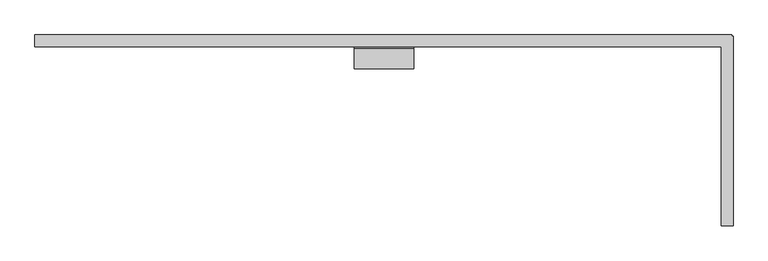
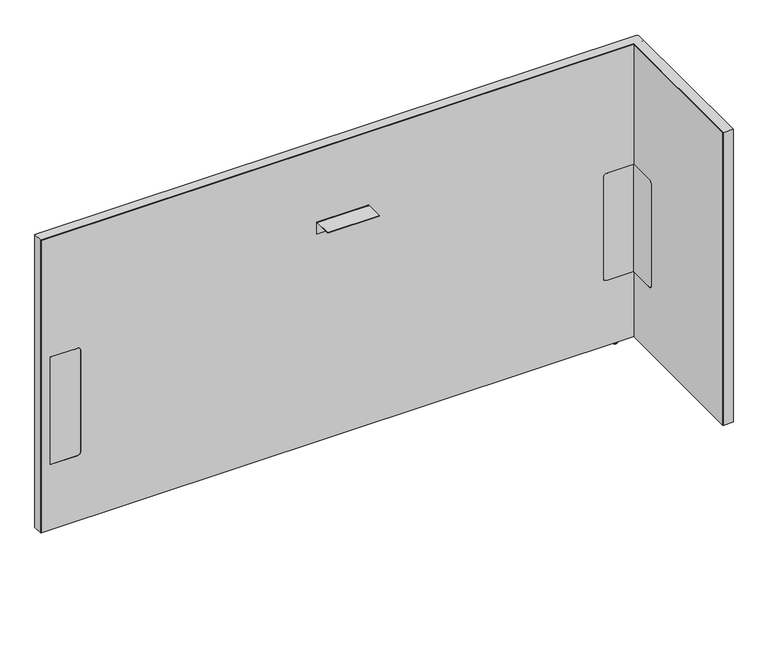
"""IFC4 building model written with IfcOpenShell, lengths in millimetres: furniture geometry, Steelcase - Answer Solution - Boundary Screen - L Return - Single Sided : 36H x 69W."""

import ifcopenshell
import ifcopenshell.guid

model = None  # the IFC model being written
_history = None  # IfcOwnerHistory: only IFC2X3 demands one
_inside = {}  # id of a spatial element -> (the spatial element, [elements in it])
_under = {}  # id of a project, library or spatial element -> (it, [spatial elements below it])
_declared = {}  # id of a project -> (the project, [libraries it declares])
_typed = {}  # id of a type object -> (the type object, [elements of that type])
_made_of = {}  # id of a material, layer set ... -> (it, [elements and type objects made of it])


def new_model(schema):
    """Start an empty IFC model of exactly this schema.

    Asked for "IFC4X3", IfcOpenShell would pick the latest addendum, in which some entities
    have other attributes; the version numbers below select the first issue.
    IFC2X3 requires an IfcOwnerHistory on every rooted entity: one is made here for all.
    """
    global model, _history
    if schema == "IFC4X3":
        model = ifcopenshell.file(schema_version=(4, 3, 0, 0))
    else:
        model = ifcopenshell.file(schema=schema)
    _inside.clear()
    _under.clear()
    _declared.clear()
    _typed.clear()
    _made_of.clear()
    _history = None
    if model.schema == "IFC2X3":
        org = make("IfcOrganization", Name="unknown")
        user = make(
            "IfcPersonAndOrganization",
            ThePerson=make("IfcPerson", FamilyName="unknown"),
            TheOrganization=org,
        )
        app = make(
            "IfcApplication",
            ApplicationDeveloper=org,
            Version="unknown",
            ApplicationFullName="unknown",
            ApplicationIdentifier="unknown",
        )
        _history = make(
            "IfcOwnerHistory",
            OwningUser=user,
            OwningApplication=app,
            ChangeAction="ADDED",
            CreationDate=0,
        )
    return model


def make(cls, **values):
    """One entity of the class cls with the attributes given. An attribute that is None is left unset."""
    return model.create_entity(
        cls, **{name: value for name, value in values.items() if value is not None}
    )


def rooted(cls, **values):
    """An entity with a GlobalId (a new one), such as an element, a storey or a relation."""
    return make(cls, GlobalId=ifcopenshell.guid.new(), OwnerHistory=_history, **values)


def si_unit(unit_type, name, prefix=None):
    """IfcSIUnit, for example si_unit("LENGTHUNIT", "METRE", prefix="MILLI")."""
    return make("IfcSIUnit", UnitType=unit_type, Prefix=prefix, Name=name)


def assignment(units):
    """IfcUnitAssignment: the units of a project."""
    return None if units is None else make("IfcUnitAssignment", Units=units)


def point(xyz):
    """IfcCartesianPoint."""
    return None if xyz is None else make("IfcCartesianPoint", Coordinates=xyz)


def direction(xyz):
    """IfcDirection."""
    return None if xyz is None else make("IfcDirection", DirectionRatios=xyz)


def frame(location, z_axis=None, x_axis=None):
    """IfcAxis2Placement3D, a coordinate frame: its origin and axes. An axis left out is left unset."""
    return make(
        "IfcAxis2Placement3D",
        Location=point(location),
        Axis=direction(z_axis),
        RefDirection=direction(x_axis),
    )


def frame_2d(location, x_axis=None):
    """IfcAxis2Placement2D, a coordinate frame in the plane: its origin and x axis."""
    return make(
        "IfcAxis2Placement2D", Location=point(location), RefDirection=direction(x_axis)
    )


def origin():
    """The frame at (0, 0, 0) with its axes left unset."""
    return frame((0.0, 0.0, 0.0))


def place(relative_to, where):
    """IfcLocalPlacement: puts the frame where relative to a parent placement (None: the world)."""
    return make(
        "IfcLocalPlacement", PlacementRelTo=relative_to, RelativePlacement=where
    )


def context(
    kind, dimensions, precision=None, world=None, true_north=None, identifier=None
):
    """IfcGeometricRepresentationContext, for example the 3D "Model" context."""
    return make(
        "IfcGeometricRepresentationContext",
        ContextIdentifier=identifier,
        ContextType=kind,
        CoordinateSpaceDimension=dimensions,
        Precision=precision,
        WorldCoordinateSystem=world,
        TrueNorth=true_north,
    )


def project(units=None, contexts=None):
    """IfcProject with its units and contexts."""
    return rooted(
        "IfcProject",
        Name="project",
        RepresentationContexts=contexts,
        UnitsInContext=assignment(units),
    )


def spatial(cls, under=None, at=None, **own):
    """A site, building, storey or space (cls), placed at a placement, below another one or the project."""
    s = rooted(cls, ObjectPlacement=at, **own)
    if under is not None:
        _under.setdefault(under.id(), (under, []))[1].append(s)
    return s


def polyline(points):
    """IfcPolyline through the points."""
    return make("IfcPolyline", Points=[point(p) for p in points])


def circle_curve(where, radius):
    """IfcCircle in the frame where."""
    return make("IfcCircle", Position=where, Radius=radius)


def ellipse_curve(where, semi_axis1, semi_axis2):
    """IfcEllipse in the frame where."""
    return make(
        "IfcEllipse", Position=where, SemiAxis1=semi_axis1, SemiAxis2=semi_axis2
    )


def trimmed(basis, trim1, trim2, sense, master):
    """IfcTrimmedCurve: the piece of a basis curve between two trims."""
    return make(
        "IfcTrimmedCurve",
        BasisCurve=basis,
        Trim1=trim1,
        Trim2=trim2,
        SenseAgreement=sense,
        MasterRepresentation=master,
    )


def segment(curve, same_sense, transition):
    """IfcCompositeCurveSegment."""
    return make(
        "IfcCompositeCurveSegment",
        Transition=transition,
        SameSense=same_sense,
        ParentCurve=curve,
    )


def composite_curve(segments, self_intersect=None):
    """IfcCompositeCurve: segments joined end to end."""
    return make("IfcCompositeCurve", Segments=segments, SelfIntersect=self_intersect)


def outline(outer, holes=None, kind="AREA"):
    """IfcArbitraryClosedProfileDef: a profile drawn as a closed curve; with holes, ...WithVoids."""
    if holes is None:
        return make("IfcArbitraryClosedProfileDef", ProfileType=kind, OuterCurve=outer)
    return make(
        "IfcArbitraryProfileDefWithVoids",
        ProfileType=kind,
        OuterCurve=outer,
        InnerCurves=holes,
    )


def extrude(swept, where, along, depth):
    """IfcExtrudedAreaSolid: the profile swept, set in the frame where, extruded along a direction by depth."""
    return make(
        "IfcExtrudedAreaSolid",
        SweptArea=swept,
        Position=where,
        ExtrudedDirection=direction(along),
        Depth=depth,
    )


def faces_of(points, faces, orient=None, outer=None):
    """IfcFace entities. A face is a list of loops; a loop is a list of indices into points, from 0.

    orient and outer hold one flag for each loop. By default every Orientation is true, the
    first loop of a face is its IfcFaceOuterBound and the others are IfcFaceBound.
    """
    made = []
    for i, loops in enumerate(faces):
        bounds = []
        for j, loop in enumerate(loops):
            is_outer = j == 0 if outer is None else outer[i][j]
            bounds.append(
                make(
                    "IfcFaceOuterBound" if is_outer else "IfcFaceBound",
                    Bound=make("IfcPolyLoop", Polygon=[points[k] for k in loop]),
                    Orientation=True if orient is None else orient[i][j],
                )
            )
        made.append(make("IfcFace", Bounds=bounds))
    return made


def faceted_brep(points, faces, orient=None, outer=None, voids=None):
    """IfcFacetedBrep: a solid bounded by flat faces; with voids (closed shells), ...WithVoids."""
    shared = [point(p) for p in points]
    hull = make("IfcClosedShell", CfsFaces=faces_of(shared, faces, orient, outer))
    if voids is None:
        return make("IfcFacetedBrep", Outer=hull)
    return make(
        "IfcFacetedBrepWithVoids",
        Outer=hull,
        Voids=[
            make(cls, CfsFaces=faces_of(shared, fs, o, b)) for cls, fs, o, b in voids
        ],
    )


def shape(context_of_items, identifier, shape_type, items):
    """IfcShapeRepresentation: the items that make up one representation, for example the "Body"."""
    return make(
        "IfcShapeRepresentation",
        ContextOfItems=context_of_items,
        RepresentationIdentifier=identifier,
        RepresentationType=shape_type,
        Items=items,
    )


def source(mapping_origin, context_of_items, identifier, shape_type, items):
    """IfcRepresentationMap: a shape defined once, which mapped items show again and again."""
    return make(
        "IfcRepresentationMap",
        MappingOrigin=mapping_origin,
        MappedRepresentation=shape(context_of_items, identifier, shape_type, items),
    )


def transform(
    local_origin,
    x_axis=None,
    y_axis=None,
    z_axis=None,
    scale=None,
    scale2=None,
    scale3=None,
    uniform=True,
):
    """IfcCartesianTransformationOperator3D, or its non-uniform kind. x_axis, y_axis, z_axis: its Axis1, 2, 3."""
    if uniform:
        return make(
            "IfcCartesianTransformationOperator3D",
            Axis1=direction(x_axis),
            Axis2=direction(y_axis),
            LocalOrigin=point(local_origin),
            Scale=scale,
            Axis3=direction(z_axis),
        )
    return make(
        "IfcCartesianTransformationOperator3DnonUniform",
        Axis1=direction(x_axis),
        Axis2=direction(y_axis),
        LocalOrigin=point(local_origin),
        Scale=scale,
        Axis3=direction(z_axis),
        Scale2=scale2,
        Scale3=scale3,
    )


def mapped(mapping_source, mapping_target):
    """IfcMappedItem: shows the shape of a source again, moved by a transform."""
    return make(
        "IfcMappedItem", MappingSource=mapping_source, MappingTarget=mapping_target
    )


def made_of(thing, what):
    """Note that an element or type object is made of a material, layer set ...; save() writes the relation."""
    if what is not None:
        _made_of.setdefault(what.id(), (what, []))[1].append(thing)
    return thing


def element(
    cls,
    number,
    at=None,
    inside=None,
    cuts=None,
    type_object=None,
    material=None,
    context=None,
    identifier="Body",
    shape_type=None,
    held_by="IfcProductDefinitionShape",
    body=None,
    shapes=None,
    **own,
):
    """One element of the class cls, such as IfcWall. Its Tag is "e" and its number.

    at: its placement. inside: the storey or other place that contains it. cuts: it is an
    opening in that element (IfcRelVoidsElement). A single representation is given by context,
    identifier, shape_type and body (its items); several are given by shapes. held_by: the class
    of the entity that holds the representations. save() writes the other relations.
    """
    e = rooted(cls, Tag="e%d" % number, ObjectPlacement=at, **own)
    if body is not None:
        shapes = [shape(context, identifier, shape_type, body)]
    if shapes is not None:
        e.Representation = make(held_by, Representations=shapes)
    if inside is not None:
        _inside.setdefault(inside.id(), (inside, []))[1].append(e)
    if cuts is not None:
        rooted(
            "IfcRelVoidsElement", RelatingBuildingElement=cuts, RelatedOpeningElement=e
        )
    if type_object is not None:
        _typed.setdefault(type_object.id(), (type_object, []))[1].append(e)
    return made_of(e, material)


def aggregate(whole, parts):
    """IfcRelAggregates: a whole, such as a stair, and the parts it consists of."""
    return rooted("IfcRelAggregates", RelatingObject=whole, RelatedObjects=parts)


def save(model, path):
    """Write the relations noted so far, then the file.

    IfcRelAggregates (storeys below a building ...), IfcRelContainedInSpatialStructure (elements
    in a storey), IfcRelDefinesByType, IfcRelAssociatesMaterial and IfcRelDeclares: one each for
    every whole, place, type object, material and project.
    """
    for whole, parts in _under.values():
        aggregate(whole, parts)
    for where, things in _inside.values():
        rooted(
            "IfcRelContainedInSpatialStructure",
            RelatedElements=things,
            RelatingStructure=where,
        )
    for kind, things in _typed.values():
        rooted("IfcRelDefinesByType", RelatedObjects=things, RelatingType=kind)
    for what, things in _made_of.values():
        rooted("IfcRelAssociatesMaterial", RelatedObjects=things, RelatingMaterial=what)
    for by, libraries in _declared.values():
        rooted("IfcRelDeclares", RelatingContext=by, RelatedDefinitions=libraries)
    model.write(path)


def plane_surface(at):
    """IfcPlane: the flat surface through the origin of the frame at, square to its z axis."""
    return make("IfcPlane", Position=at)


def cylinder_surface(at, radius):
    """IfcCylindricalSurface: all points at the distance radius from the z axis of the frame at."""
    return make("IfcCylindricalSurface", Position=at, Radius=radius)


def revolved_surface(curve, axis_point, axis_direction):
    """IfcSurfaceOfRevolution: the curve turned about the line through axis_point along axis_direction."""
    return make(
        "IfcSurfaceOfRevolution",
        SweptCurve=make("IfcArbitraryOpenProfileDef", ProfileType="CURVE", Curve=curve),
        AxisPosition=make("IfcAxis1Placement", Location=point(axis_point), Axis=direction(axis_direction)),
    )


def advanced_brep(points, edges, surfaces, faces):
    """IfcAdvancedBrep: a solid bounded by faces that lie on surfaces and meet in shared edges.

    An edge is (start, end): straight between two places in points (the first is 0);
    or (start, end, curve); or (start, end, curve, False) where it runs against its curve.
    A face is (place in surfaces, loops), or (place, loops, False) where it looks against
    its surface's normal. A loop lists edges by number (the first is 1), with a minus sign
    where the edge is run from its end to its start. The first loop is the outer one.
    """
    corners = [point(p) for p in points]
    vertices = [make("IfcVertexPoint", VertexGeometry=c) for c in corners]
    made = []
    for start, end, *more in edges:
        made.append(
            make(
                "IfcEdgeCurve",
                EdgeStart=vertices[start],
                EdgeEnd=vertices[end],
                EdgeGeometry=more[0] if more else make("IfcPolyline", Points=[corners[start], corners[end]]),
                SameSense=more[1] if len(more) > 1 else True,
            )
        )
    hull = []
    for where, loops, *sense in faces:
        bounds = []
        for j, loop in enumerate(loops):
            ring = [make("IfcOrientedEdge", EdgeElement=made[abs(k) - 1], Orientation=k > 0) for k in loop]
            bounds.append(
                make(
                    "IfcFaceOuterBound" if j == 0 else "IfcFaceBound",
                    Bound=make("IfcEdgeLoop", EdgeList=ring),
                    Orientation=True,
                )
            )
        hull.append(make("IfcAdvancedFace", Bounds=bounds, FaceSurface=surfaces[where], SameSense=sense[0] if sense else True))
    return make("IfcAdvancedBrep", Outer=make("IfcClosedShell", CfsFaces=hull))


def furniture_071846f4(model_context):
    return source(origin(), model_context, "Body", "SolidModel", [
        extrude(outline(composite_curve([segment(polyline([(-109.3501471, 549.6162029), (-29.0550397, 549.6162029), (-29.0550397, 213.7762137), (-109.3501471, 213.7762137)]), True, "CONTINUOUS"), segment(trimmed(circle_curve(frame_2d((-109.3501471, 223.9362137)), 10.16), [point((-109.3501471, 213.7762137))], [point((-119.5101471, 223.9362137))], False, "CARTESIAN"), True, "CONTINUOUS"), segment(polyline([(-119.5101471, 223.9362137), (-119.5101471, 539.4562029)]), True, "CONTINUOUS"), segment(trimmed(circle_curve(frame_2d((-109.3501471, 539.4562029)), 10.16), [point((-119.5101471, 539.4562029))], [point((-109.3501471, 549.6162029))], False, "CARTESIAN"), True, "CONTINUOUS")], self_intersect=False)), frame((1982.4191891, 0.0, 0.0), z_axis=(1.0, 0.0, 0.0), x_axis=(0.0, 1.0, 0.0)), (0.0, 0.0, 1.0), 0.6401544),
        advanced_brep(
        [(1997.2672074, -448.0136072, 0.0), (2004.2216144, -448.0136072, 0.0), (1990.3128003, -448.0136072, 0.0), (2005.6762685, -448.0136072, 1.2700001), (1988.8581463, -448.0136072, 1.2700001), (2005.6762685, -448.0136072, 2.9673238), (1988.8581463, -448.0136072, 2.9673238), (2006.6427877, -448.0136072, 2.9673238), (1987.891627, -448.0136072, 2.9673238), (2006.6427877, -448.0136072, 9.9059849), (1987.891627, -448.0136072, 9.9059849), (1997.2672074, -448.0136072, 9.9059849)],
        [
            (0, 1),
            (1, 2, circle_curve(frame((1997.2672074, -448.0136072, 0.0), z_axis=(0.0, 0.0, -1.0), x_axis=(1.0, 0.0, 0.0)), 6.9544071)),
            (2, 0),
            (2, 1, circle_curve(frame((1997.2672074, -448.0136072, 0.0), z_axis=(0.0, 0.0, -1.0), x_axis=(1.0, 0.0, 0.0)), 6.9544071)),
            (1, 3, circle_curve(frame((2004.3945484, -448.0136072, 1.2700001), z_axis=(0.0, -1.0, 0.0), x_axis=(0.0, 0.0, 1.0)), 1.2817201)),
            (3, 4, circle_curve(frame((1997.2672074, -448.0136072, 1.2700001), z_axis=(0.0, 0.0, -1.0), x_axis=(1.0, 0.0, 0.0)), 8.4090611)),
            (4, 2, circle_curve(frame((1990.1398663, -448.0136072, 1.2700001), z_axis=(0.0, -1.0, 0.0), x_axis=(0.0, 0.0, 1.0)), 1.2817201)),
            (4, 3, circle_curve(frame((1997.2672074, -448.0136072, 1.2700001), z_axis=(0.0, 0.0, -1.0), x_axis=(1.0, 0.0, 0.0)), 8.4090611)),
            (3, 5),
            (5, 6, circle_curve(frame((1997.2672074, -448.0136072, 2.9673238), z_axis=(0.0, 0.0, -1.0), x_axis=(1.0, 0.0, 0.0)), 8.4090611)),
            (6, 4),
            (6, 5, circle_curve(frame((1997.2672074, -448.0136072, 2.9673238), z_axis=(0.0, 0.0, -1.0), x_axis=(1.0, 0.0, 0.0)), 8.4090611)),
            (5, 7),
            (7, 8, circle_curve(frame((1997.2672074, -448.0136072, 2.9673238), z_axis=(0.0, 0.0, -1.0), x_axis=(1.0, 0.0, 0.0)), 9.3755804)),
            (8, 6),
            (8, 7, circle_curve(frame((1997.2672074, -448.0136072, 2.9673238), z_axis=(0.0, 0.0, -1.0), x_axis=(1.0, 0.0, 0.0)), 9.3755804)),
            (7, 9),
            (9, 10, circle_curve(frame((1997.2672074, -448.0136072, 9.9059849), z_axis=(0.0, 0.0, -1.0), x_axis=(1.0, 0.0, 0.0)), 9.3755804)),
            (10, 8),
            (10, 9, circle_curve(frame((1997.2672074, -448.0136072, 9.9059849), z_axis=(0.0, 0.0, -1.0), x_axis=(1.0, 0.0, 0.0)), 9.3755804)),
            (9, 11),
            (11, 10),
        ],
        [
            plane_surface(frame((1997.2672074, -448.0136072, 0.0), z_axis=(0.0, 0.0, -1.0), x_axis=(1.0, 0.0, 0.0))),
            revolved_surface(trimmed(ellipse_curve(frame((2004.3945484, -448.0136072, 1.2700001), z_axis=(0.0, 1.0, 0.0), x_axis=(0.0, 0.0, 1.0)), 1.2817201, 1.2817201), [point((2005.6762685, -448.0136072, 1.2700001))], [point((2004.2216144, -448.0136072, 0.0))], True, "CARTESIAN"), (1997.2672074, -448.0136072, 9.9059849), (0.0, 0.0, -1.0)),
            cylinder_surface(frame((1997.2672074, -448.0136072, 9.9059849), z_axis=(0.0, 0.0, -1.0), x_axis=(1.0, 0.0, 0.0)), 8.4090611),
            plane_surface(frame((1997.2672074, -448.0136072, 2.9673238), z_axis=(0.0, 0.0, -1.0), x_axis=(1.0, 0.0, 0.0))),
            cylinder_surface(frame((1997.2672074, -448.0136072, 9.9059849), z_axis=(0.0, 0.0, -1.0), x_axis=(1.0, 0.0, 0.0)), 9.3755804),
            plane_surface(frame((1997.2672074, -448.0136072, 9.9059849), z_axis=(0.0, 0.0, 1.0), x_axis=(1.0, 0.0, 0.0))),
        ],
        [
            (0, [[1, 2, 3]]),
            (0, [[-3, 4, -1]]),
            (1, [[-2, 5, 6, 7]]),
            (1, [[-4, -7, 8, -5]]),
            (2, [[-6, 9, 10, 11]]),
            (2, [[-8, -11, 12, -9]]),
            (3, [[-10, 13, 14, 15]]),
            (3, [[-12, -15, 16, -13]]),
            (4, [[-14, 17, 18, 19]]),
            (4, [[-16, -19, 20, -17]]),
            (5, [[-18, 21, 22]]),
            (5, [[-20, -22, -21]]),
        ],
    ),
        faceted_brep([(2008.8531179, 0.0, 925.322), (2008.8531179, 0.0, 9.9059849), (2007.8621491, 0.0, 9.9059849), (2007.8621491, 0.0, 924.342118), (230.8097779, 0.0, 924.342118), (230.8097779, 0.0, 9.9059849), (229.8191891, 0.0, 9.9059849), (229.8191891, 0.0, 925.322), (229.8191891, -29.6898332, 925.322), (229.8191891, -29.6898332, 9.9059849), (230.8097779, -29.6898332, 9.9059849), (230.8097779, -29.6898332, 924.342118), (1982.4191891, -29.6898332, 924.342118), (1982.4191891, -29.6898332, 925.322), (2007.8621491, -29.6898332, 924.342118), (2007.8621491, -29.6898332, 9.9059849), (2008.8531179, -29.6898332, 9.9059849), (2008.8531179, -29.6898332, 924.342118), (2008.8531179, -3.2625916, 925.322), (2008.8531179, -3.2625916, 9.9059849), (2008.8531179, -4.252647, 9.9059849), (2008.8531179, -4.252647, 924.342118), (2012.1152256, -3.2625916, 9.9059849), (2012.1152256, -4.252647, 9.9059849), (2007.8621491, -4.252647, 9.9059849), (1982.4191891, -4.252647, 9.9059849), (1982.4191891, -3.2625916, 9.9059849), (2007.8621491, -3.2625916, 9.9059849), (1982.4191891, -486.8898332, 925.322), (2012.1152256, -486.8898332, 925.322), (2012.1152256, -3.2625916, 925.322), (2007.8621491, -3.2625916, 924.342118), (2007.8621491, -4.252647, 924.342118), (1982.4191891, -3.2625916, 924.342118), (1982.4191891, -4.252647, 924.342118), (2012.1152256, -4.252647, 924.342118), (2012.1152256, -485.899196, 924.342118), (1982.4191891, -485.899196, 924.342118), (1982.4191891, -485.899196, 9.9059849), (1982.4191891, -486.8898332, 9.9059849), (2012.1152256, -486.8898332, 9.9059849), (2012.1152256, -485.899196, 9.9059849)], [[[0, 1, 2, 3, 4, 5, 6, 7]], [[8, 9, 10, 11, 12, 13]], [[14, 15, 16, 17]], [[1, 0, 18, 19]], [[17, 16, 20, 21]], [[2, 1, 19, 22, 23, 20, 16, 15, 24, 25, 26, 27]], [[7, 6, 9, 8]], [[0, 7, 8, 13, 28, 29, 30, 18]], [[3, 2, 27, 31]], [[15, 14, 32, 24]], [[4, 3, 31, 33, 34, 32, 14, 17, 21, 35, 36, 37, 12, 11]], [[5, 4, 11, 10]], [[6, 5, 10, 9]], [[26, 25, 34, 33]], [[37, 38, 39, 28, 13, 12]], [[29, 40, 41, 36, 35, 23, 22, 30]], [[27, 26, 33, 31]], [[30, 22, 19, 18]], [[34, 25, 24, 32]], [[23, 35, 21, 20]], [[38, 37, 36, 41]], [[39, 38, 41, 40]], [[28, 39, 40, 29]]]),
        extrude(outline(composite_curve([segment(polyline([(-86.8398151, 696.4680019), (-86.8398151, 698.5), (-34.9450855, 698.5)]), True, "CONTINUOUS"), segment(trimmed(circle_curve(frame_2d((-34.9450855, 693.2447477)), 5.2552523), [point((-34.9450855, 698.5))], [point((-29.6898332, 693.2447477))], False, "CARTESIAN"), True, "CONTINUOUS"), segment(polyline([(-29.6898332, 693.2447477), (-29.6898332, 660.4), (-31.7218162, 660.4), (-31.7218162, 693.0058743)]), True, "CONTINUOUS"), segment(trimmed(circle_curve(frame_2d((-35.1839438, 693.0058743)), 3.4621276), [point((-31.7218162, 693.0058743))], [point((-35.1839438, 696.4680019))], True, "CARTESIAN"), True, "CONTINUOUS"), segment(polyline([(-35.1839438, 696.4680019), (-86.8398151, 696.4680019)]), True, "CONTINUOUS")], self_intersect=False)), frame((1044.7685899, 0.0, 0.0), z_axis=(1.0, 0.0, 0.0), x_axis=(0.0, 1.0, 0.0)), (0.0, 0.0, 1.0), 152.4000969),
        advanced_brep(
        [(1934.9246853, -23.7588726, 9.9059849), (1934.9246853, -5.9309607, 9.9059849), (1934.9246853, -14.8449166, 9.9059849), (1934.9246853, -23.7588726, 2.9673238), (1934.9246853, -5.9309607, 2.9673238), (1934.9246853, -22.7915354, 2.9673238), (1934.9246853, -6.8982978, 2.9673238), (1934.9246853, -22.7915354, 1.6569081), (1934.9246853, -6.8982978, 1.6569081), (1934.9246853, -21.1346274, 0.0), (1934.9246853, -8.5552059, 0.0), (1934.9246853, -14.8449166, 0.0)],
        [
            (0, 1, circle_curve(frame((1934.9246853, -14.8449166, 9.9059849), z_axis=(0.0, 0.0, 1.0), x_axis=(0.0, 1.0, 0.0)), 8.913956)),
            (1, 2),
            (2, 0),
            (1, 0, circle_curve(frame((1934.9246853, -14.8449166, 9.9059849), z_axis=(0.0, 0.0, 1.0), x_axis=(0.0, 1.0, 0.0)), 8.913956)),
            (3, 4, circle_curve(frame((1934.9246853, -14.8449166, 2.9673238), z_axis=(0.0, 0.0, 1.0), x_axis=(0.0, 1.0, 0.0)), 8.913956)),
            (4, 1),
            (0, 3),
            (4, 3, circle_curve(frame((1934.9246853, -14.8449166, 2.9673238), z_axis=(0.0, 0.0, 1.0), x_axis=(0.0, 1.0, 0.0)), 8.913956)),
            (5, 6, circle_curve(frame((1934.9246853, -14.8449166, 2.9673238), z_axis=(0.0, 0.0, 1.0), x_axis=(0.0, 1.0, 0.0)), 7.9466188)),
            (6, 4),
            (3, 5),
            (6, 5, circle_curve(frame((1934.9246853, -14.8449166, 2.9673238), z_axis=(0.0, 0.0, 1.0), x_axis=(0.0, 1.0, 0.0)), 7.9466188)),
            (7, 8, circle_curve(frame((1934.9246853, -14.8449166, 1.6569081), z_axis=(0.0, 0.0, 1.0), x_axis=(0.0, 1.0, 0.0)), 7.9466188)),
            (8, 6),
            (5, 7),
            (8, 7, circle_curve(frame((1934.9246853, -14.8449166, 1.6569081), z_axis=(0.0, 0.0, 1.0), x_axis=(0.0, 1.0, 0.0)), 7.9466188)),
            (9, 10, circle_curve(frame((1934.9246853, -14.8449166, 0.0), z_axis=(0.0, 0.0, 1.0), x_axis=(0.0, 1.0, 0.0)), 6.2897107)),
            (10, 8, circle_curve(frame((1934.9246853, -8.5552059, 1.6569081), z_axis=(1.0, 0.0, 0.0), x_axis=(0.0, 1.0, 0.0)), 1.6569081)),
            (7, 9, circle_curve(frame((1934.9246853, -21.1346274, 1.6569081), z_axis=(1.0, 0.0, 0.0), x_axis=(0.0, -1.0, 0.0)), 1.6569081)),
            (10, 9, circle_curve(frame((1934.9246853, -14.8449166, 0.0), z_axis=(0.0, 0.0, 1.0), x_axis=(0.0, 1.0, 0.0)), 6.2897107)),
            (11, 10),
            (9, 11),
        ],
        [
            plane_surface(frame((1934.9246853, -14.8449166, 9.9059849), z_axis=(0.0, 0.0, 1.0), x_axis=(0.0, 1.0, 0.0))),
            cylinder_surface(frame((1934.9246853, -14.8449166, 9.9059849), z_axis=(0.0, 0.0, -1.0), x_axis=(0.0, 1.0, 0.0)), 8.913956),
            plane_surface(frame((1934.9246853, -14.8449166, 2.9673238), z_axis=(0.0, 0.0, -1.0), x_axis=(0.0, 1.0, 0.0))),
            cylinder_surface(frame((1934.9246853, -14.8449166, 9.9059849), z_axis=(0.0, 0.0, -1.0), x_axis=(0.0, 1.0, 0.0)), 7.9466188),
            revolved_surface(trimmed(ellipse_curve(frame((1934.9246853, -8.5552059, 1.6569081), z_axis=(-1.0, 0.0, 0.0), x_axis=(0.0, 1.0, 0.0)), 1.6569081, 1.6569081), [point((1934.9246853, -6.8982978, 1.6569081))], [point((1934.9246853, -8.5552059, 0.0))], True, "CARTESIAN"), (1934.9246853, -14.8449166, 9.9059849), (0.0, 0.0, -1.0)),
            plane_surface(frame((1934.9246853, -14.8449166, 0.0), z_axis=(0.0, 0.0, -1.0), x_axis=(0.0, 1.0, 0.0))),
        ],
        [
            (0, [[1, 2, 3]]),
            (0, [[4, -3, -2]]),
            (1, [[5, 6, -1, 7]]),
            (1, [[8, -7, -4, -6]]),
            (2, [[9, 10, -5, 11]]),
            (2, [[12, -11, -8, -10]]),
            (3, [[13, 14, -9, 15]]),
            (3, [[16, -15, -12, -14]]),
            (4, [[17, 18, -13, 19]]),
            (4, [[20, -19, -16, -18]]),
            (5, [[21, -17, 22]]),
            (5, [[-22, -20, -21]]),
        ],
    ),
        advanced_brep(
        [(230.8097779, 0.0, 924.342118), (2007.8621491, 0.0, 924.342118), (2007.8621491, 0.0, 9.9059849), (230.8097779, 0.0, 9.9059849), (347.9483813, -29.0550397, 539.4562029), (337.7883813, -29.0550397, 549.6162029), (258.1344836, -29.0550397, 549.6162029), (258.1344836, -29.0550397, 213.7762137), (337.7883813, -29.0550397, 213.7762137), (347.9483813, -29.0550397, 223.9362137), (1983.0593435, -29.0550397, 213.7762137), (1983.0593435, -29.0550397, 549.6162029), (1902.5109268, -29.0550397, 549.6162029), (1892.3509268, -29.0550397, 539.4562029), (1892.3509268, -29.0550397, 223.9362137), (1902.5109268, -29.0550397, 213.7762137), (230.8097779, -29.6898332, 924.342118), (230.8097779, -29.6898332, 9.9059849), (1982.4191891, -29.6898332, 9.9059849), (1982.4191891, -29.6898332, 213.7762137), (1902.5109268, -29.6898332, 213.7762137), (1892.3509268, -29.6898332, 223.9362137), (1892.3509268, -29.6898332, 539.4562029), (1902.5109268, -29.6898332, 549.6162029), (1982.4191891, -29.6898332, 549.6162029), (1982.4191891, -29.6898332, 924.342118), (337.7883813, -29.6898332, 549.6162029), (347.9483813, -29.6898332, 539.4562029), (347.9483813, -29.6898332, 223.9362137), (337.7883813, -29.6898332, 213.7762137), (258.1344836, -29.6898332, 213.7762137), (258.1344836, -29.6898332, 549.6162029), (2007.8621491, -4.252647, 9.9059849), (2012.1152256, -4.252647, 9.9059849), (2012.1152256, -485.899196, 9.9059849), (1982.4191891, -485.899196, 9.9059849), (2007.8621491, -4.252647, 924.342118), (1982.4191891, -485.899196, 924.342118), (2012.1152256, -485.899196, 924.342118), (2012.1152256, -4.252647, 924.342118), (1983.0593435, -109.3501471, 549.6162029), (1982.4191891, -109.3501471, 549.6162029), (1983.0593435, -109.3501471, 213.7762137), (1983.0593435, -119.5101471, 223.9362137), (1983.0593435, -119.5101471, 539.4562029), (1982.4191891, -109.3501471, 213.7762137), (1982.4191891, -119.5101471, 539.4562029), (1982.4191891, -119.5101471, 223.9362137)],
        [
            (0, 1),
            (1, 2),
            (2, 3),
            (3, 0),
            (4, 5, circle_curve(frame((337.7883813, -29.0550397, 539.4562029), z_axis=(0.0, -1.0, 0.0), x_axis=(0.0, 0.0, 1.0)), 10.16)),
            (5, 6),
            (6, 7),
            (7, 8),
            (8, 9, circle_curve(frame((337.7883813, -29.0550397, 223.9362137), z_axis=(0.0, -1.0, 0.0), x_axis=(0.0, 0.0, 1.0)), 10.16)),
            (9, 4),
            (10, 11),
            (11, 12),
            (12, 13, circle_curve(frame((1902.5109268, -29.0550397, 539.4562029), z_axis=(0.0, -1.0, 0.0), x_axis=(0.0, 0.0, 1.0)), 10.16)),
            (13, 14),
            (14, 15, circle_curve(frame((1902.5109268, -29.0550397, 223.9362137), z_axis=(0.0, -1.0, 0.0), x_axis=(0.0, 0.0, 1.0)), 10.16)),
            (15, 10),
            (16, 17),
            (17, 18),
            (18, 19),
            (19, 20),
            (20, 21, circle_curve(frame((1902.5109268, -29.6898332, 223.9362137), z_axis=(0.0, 1.0, 0.0), x_axis=(0.0, 0.0, 1.0)), 10.16)),
            (21, 22),
            (22, 23, circle_curve(frame((1902.5109268, -29.6898332, 539.4562029), z_axis=(0.0, 1.0, 0.0), x_axis=(0.0, 0.0, 1.0)), 10.16)),
            (23, 24),
            (24, 25),
            (25, 16),
            (26, 27, circle_curve(frame((337.7883813, -29.6898332, 539.4562029), z_axis=(0.0, 1.0, 0.0), x_axis=(0.0, 0.0, 1.0)), 10.16)),
            (27, 28),
            (28, 29, circle_curve(frame((337.7883813, -29.6898332, 223.9362137), z_axis=(0.0, 1.0, 0.0), x_axis=(0.0, 0.0, 1.0)), 10.16)),
            (29, 30),
            (30, 31),
            (31, 26),
            (16, 0),
            (3, 17),
            (2, 32),
            (32, 33),
            (33, 34),
            (34, 35),
            (35, 18),
            (1, 36),
            (36, 32),
            (25, 37),
            (37, 38),
            (38, 39),
            (39, 36),
            (26, 5),
            (4, 27),
            (9, 28),
            (8, 29),
            (7, 30),
            (6, 31),
            (11, 40),
            (40, 41),
            (41, 24),
            (23, 12),
            (42, 43, circle_curve(frame((1983.0593435, -109.3501471, 223.9362137), z_axis=(-1.0, 0.0, 0.0), x_axis=(0.0, 1.0, 0.0)), 10.16)),
            (43, 44),
            (44, 40, circle_curve(frame((1983.0593435, -109.3501471, 539.4562029), z_axis=(-1.0, 0.0, 0.0), x_axis=(0.0, 1.0, 0.0)), 10.16)),
            (10, 42),
            (15, 20),
            (19, 45),
            (45, 42),
            (14, 21),
            (13, 22),
            (35, 37),
            (41, 46, circle_curve(frame((1982.4191891, -109.3501471, 539.4562029), z_axis=(1.0, 0.0, 0.0), x_axis=(0.0, 1.0, 0.0)), 10.16)),
            (46, 47),
            (47, 45, circle_curve(frame((1982.4191891, -109.3501471, 223.9362137), z_axis=(1.0, 0.0, 0.0), x_axis=(0.0, 1.0, 0.0)), 10.16)),
            (38, 34),
            (33, 39),
            (44, 46),
            (43, 47),
        ],
        [
            plane_surface(frame((347.9483813, 0.0, 549.6162029), z_axis=(0.0, 1.0, 0.0), x_axis=(0.0, 0.0, -1.0))),
            plane_surface(frame((347.9483813, -29.0550397, 549.6162029), z_axis=(0.0, -1.0, 0.0), x_axis=(0.0, 0.0, 1.0))),
            plane_surface(frame((2007.8621491, -29.6898332, 924.342118), z_axis=(0.0, -1.0, 0.0), x_axis=(-1.0, 0.0, 0.0))),
            plane_surface(frame((230.8097779, 0.0, 9.9059849), z_axis=(-1.0, 0.0, 0.0), x_axis=(0.0, -1.0, 0.0))),
            plane_surface(frame((2007.8621491, 0.0, 9.9059849), z_axis=(0.0, 0.0, -1.0), x_axis=(0.0, -1.0, 0.0))),
            plane_surface(frame((2007.8621491, 0.0, 924.342118), z_axis=(1.0, 0.0, 0.0), x_axis=(0.0, -1.0, 0.0))),
            plane_surface(frame((230.8097779, 0.0, 924.342118), z_axis=(0.0, 0.0, 1.0), x_axis=(0.0, -1.0, 0.0))),
            revolved_surface(polyline([(337.7883813, -29.6898332, 549.6162029), (337.7883813, -29.0550397, 549.6162029)]), (337.7883813, -29.6898332, 539.4562029), (0.0, -1.0, 0.0)),
            plane_surface(frame((347.9483813, 0.0, 223.9362137), z_axis=(-1.0, 0.0, 0.0), x_axis=(0.0, -1.0, 0.0))),
            revolved_surface(polyline([(337.7883813, -29.6898332, 234.0962137), (337.7883813, -29.0550397, 234.0962137)]), (337.7883813, -29.6898332, 223.9362137), (0.0, -1.0, 0.0)),
            plane_surface(frame((258.1344836, 0.0, 213.7762137), z_axis=(0.0, 0.0, 1.0), x_axis=(0.0, -1.0, 0.0))),
            plane_surface(frame((258.1344836, 0.0, 549.6162029), z_axis=(1.0, 0.0, 0.0), x_axis=(0.0, -1.0, 0.0))),
            plane_surface(frame((337.7883813, 0.0, 549.6162029), z_axis=(0.0, 0.0, -1.0), x_axis=(0.0, -1.0, 0.0))),
            plane_surface(frame((1983.0593435, 0.0, 549.6162029), z_axis=(0.0, 0.0, -1.0), x_axis=(0.0, -1.0, 0.0))),
            plane_surface(frame((1983.0593435, 0.0, 213.7762137), z_axis=(-1.0, 0.0, 0.0), x_axis=(0.0, -1.0, 0.0))),
            plane_surface(frame((1902.5109268, 0.0, 213.7762137), z_axis=(0.0, 0.0, 1.0), x_axis=(0.0, -1.0, 0.0))),
            revolved_surface(polyline([(1902.5109268, -29.6898332, 234.0962137), (1902.5109268, -29.0550397, 234.0962137)]), (1902.5109268, -29.6898332, 223.9362137), (0.0, -1.0, 0.0)),
            plane_surface(frame((1892.3509268, 0.0, 539.4562029), z_axis=(1.0, 0.0, 0.0), x_axis=(0.0, -1.0, 0.0))),
            revolved_surface(polyline([(1902.5109268, -29.6898332, 549.6162029), (1902.5109268, -29.0550397, 549.6162029)]), (1902.5109268, -29.6898332, 539.4562029), (0.0, -1.0, 0.0)),
            plane_surface(frame((1982.4191891, -485.899196, 924.342118), z_axis=(-1.0, 0.0, 0.0), x_axis=(0.0, 0.0, 1.0))),
            plane_surface(frame((2012.1152256, -485.899196, 924.342118), z_axis=(1.0, 0.0, 0.0), x_axis=(0.0, 0.0, -1.0))),
            plane_surface(frame((2012.1152256, -4.252647, 9.9059849), z_axis=(0.0, 1.0, 0.0), x_axis=(-1.0, 0.0, 0.0))),
            plane_surface(frame((2012.1152256, -485.899196, 924.342118), z_axis=(0.0, -1.0, 0.0), x_axis=(-1.0, 0.0, 0.0))),
            revolved_surface(polyline([(1982.4191891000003, -99.1901471, 539.4562029), (1983.0593435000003, -99.1901471, 539.4562029)]), (-340.6902705, -109.3501471, 539.4562029), (-1.0, 0.0, 0.0)),
            plane_surface(frame((2012.1152256, -119.5101471, 223.9362137), z_axis=(0.0, 1.0, 0.0), x_axis=(-1.0, 0.0, 0.0))),
            revolved_surface(polyline([(1982.4191891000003, -99.1901471, 223.9362137), (1983.0593435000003, -99.1901471, 223.9362137)]), (-340.6902705, -109.3501471, 223.9362137), (-1.0, 0.0, 0.0)),
        ],
        [
            (0, [[1, 2, 3, 4]]),
            (1, [[5, 6, 7, 8, 9, 10]]),
            (1, [[11, 12, 13, 14, 15, 16]]),
            (2, [[17, 18, 19, 20, 21, 22, 23, 24, 25, 26], [27, 28, 29, 30, 31, 32]]),
            (3, [[-17, 33, -4, 34]]),
            (4, [[-3, 35, 36, 37, 38, 39, -18, -34]]),
            (5, [[-2, 40, 41, -35]]),
            (6, [[-1, -33, -26, 42, 43, 44, 45, -40]]),
            (7, [[-27, 46, -5, 47]]),
            (8, [[-28, -47, -10, 48]]),
            (9, [[-29, -48, -9, 49]]),
            (10, [[-30, -49, -8, 50]]),
            (11, [[-31, -50, -7, 51]]),
            (12, [[-32, -51, -6, -46]]),
            (13, [[52, 53, 54, -24, 55, -12]]),
            (14, [[56, 57, 58, -52, -11, 59]]),
            (15, [[-59, -16, 60, -20, 61, 62]]),
            (16, [[-21, -60, -15, 63]]),
            (17, [[-22, -63, -14, 64]]),
            (18, [[-23, -64, -13, -55]]),
            (19, [[65, -42, -25, -54, 66, 67, 68, -61, -19, -39]]),
            (20, [[69, -37, 70, -44]]),
            (21, [[-70, -36, -41, -45]]),
            (22, [[-65, -38, -69, -43]]),
            (23, [[-66, -53, -58, 71]]),
            (24, [[-67, -71, -57, 72]]),
            (25, [[-68, -72, -56, -62]]),
        ],
    ),
        extrude(outline(composite_curve([segment(polyline([(549.6162029, 337.7883813), (549.6162029, 258.1344836), (213.7762137, 258.1344836), (213.7762137, 337.7883813)]), True, "CONTINUOUS"), segment(trimmed(circle_curve(frame_2d((223.9362137, 337.7883813)), 10.16), [point((213.7762137, 337.7883813))], [point((223.9362137, 347.9483813))], False, "CARTESIAN"), True, "CONTINUOUS"), segment(polyline([(223.9362137, 347.9483813), (539.4562029, 347.9483813)]), True, "CONTINUOUS"), segment(trimmed(circle_curve(frame_2d((539.4562029, 337.7883813)), 10.16), [point((539.4562029, 347.9483813))], [point((549.6162029, 337.7883813))], False, "CARTESIAN"), True, "CONTINUOUS")], self_intersect=False)), frame((0.0, -29.6898332, 0.0), z_axis=(0.0, 1.0, 0.0), x_axis=(0.0, 0.0, 1.0)), (0.0, 0.0, 1.0), 0.6347935),
        extrude(outline(composite_curve([segment(trimmed(circle_curve(frame_2d((539.4562029, 1902.5109268)), 10.16), [point((549.6162029, 1902.5109268))], [point((539.4562029, 1892.3509268))], False, "CARTESIAN"), True, "CONTINUOUS"), segment(polyline([(539.4562029, 1892.3509268), (223.9362137, 1892.3509268)]), True, "CONTINUOUS"), segment(trimmed(circle_curve(frame_2d((223.9362137, 1902.5109268)), 10.16), [point((223.9362137, 1892.3509268))], [point((213.7762137, 1902.5109268))], False, "CARTESIAN"), True, "CONTINUOUS"), segment(polyline([(213.7762137, 1902.5109268), (213.7762137, 1982.4191891), (549.6162029, 1982.4191891), (549.6162029, 1902.5109268)]), True, "CONTINUOUS")], self_intersect=False)), frame((0.0, -29.6898332, 0.0), z_axis=(0.0, 1.0, 0.0), x_axis=(0.0, 0.0, 1.0)), (0.0, 0.0, 1.0), 0.6347935),
    ])


if __name__ == "__main__":
    model = new_model("IFC4")
    model_context = context("Model", 3, world=origin())
    ifc_project = project(units=[si_unit("LENGTHUNIT", "METRE", prefix="MILLI")], contexts=[model_context])
    site = spatial("IfcSite", under=ifc_project)
    building = spatial("IfcBuilding", under=site)
    placement = place(None, origin())
    furniture_shape = furniture_071846f4(model_context)
    element("IfcFurniture", 1, ObjectType="Steelcase - Answer Solution - Boundary Screen - L Return - Single Sided : 36H x 69W", at=placement, inside=building, context=model_context, shape_type="MappedRepresentation", body=[
        mapped(furniture_shape, transform((0.0, 0.0, 0.0), x_axis=(1.0, 0.0, 0.0), y_axis=(0.0, 1.0, 0.0), z_axis=(0.0, 0.0, 1.0))),
    ])
    save(model, "model.ifc")
